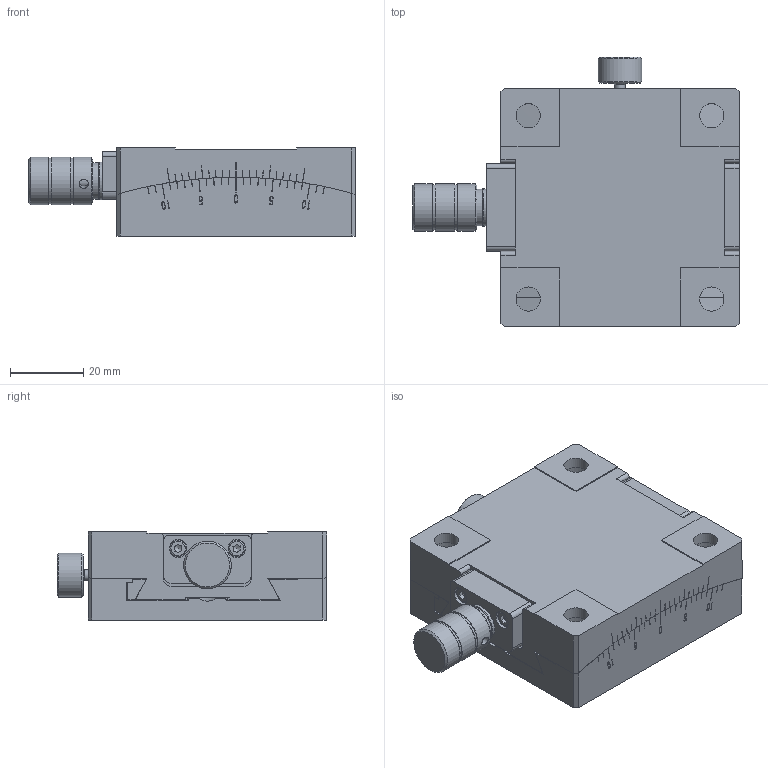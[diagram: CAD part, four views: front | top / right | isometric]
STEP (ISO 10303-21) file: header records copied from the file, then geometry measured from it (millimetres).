
FILE_DESCRIPTION (( 'STEP AP203' ), '1' );
FILE_NAME ('BFSG65-100.STEP', '2024-07-30T13:00:54', ( 'Windows User' ), ( 'P R C' ), 'SwSTEP 2.0', 'SolidWorks 2024', '' );
FILE_SCHEMA (( 'CONFIG_CONTROL_DESIGN' ));
Length unit declared in the file: millimetre
Products named in the file (1): BFSG65-100
Bounding box: 89 x 73.42 x 24 mm (x, y, z)
Volume: 91713.8 mm3; surface area: 38781.6 mm2
Topology: 14 solids, 14 shells, 670 faces, 1816 edges, 1207 vertices
Faces by surface type: plane 427, cylinder 117, bspline 69, cone 39, torus 18
Full cylindrical faces by diameter (mm): 2.05 x4, 2.2 x1, 2.5 x10, 3 x1, 3.3 x4, 4 x6, 4.5 x4, 5 x7, 6 x2, 6.6 x4, 7 x1, 9 x5, 10 x1, 10.3 x2, 11 x4, 12 x1, 12.5 x2, 13 x3
Entity records: 36066 total; most frequent: CARTESIAN_POINT 20150, ORIENTED_EDGE 3348, DIRECTION 2948, EDGE_CURVE 1674, VERTEX_POINT 1172, VECTOR 994, LINE 994, AXIS2_PLACEMENT_3D 977
